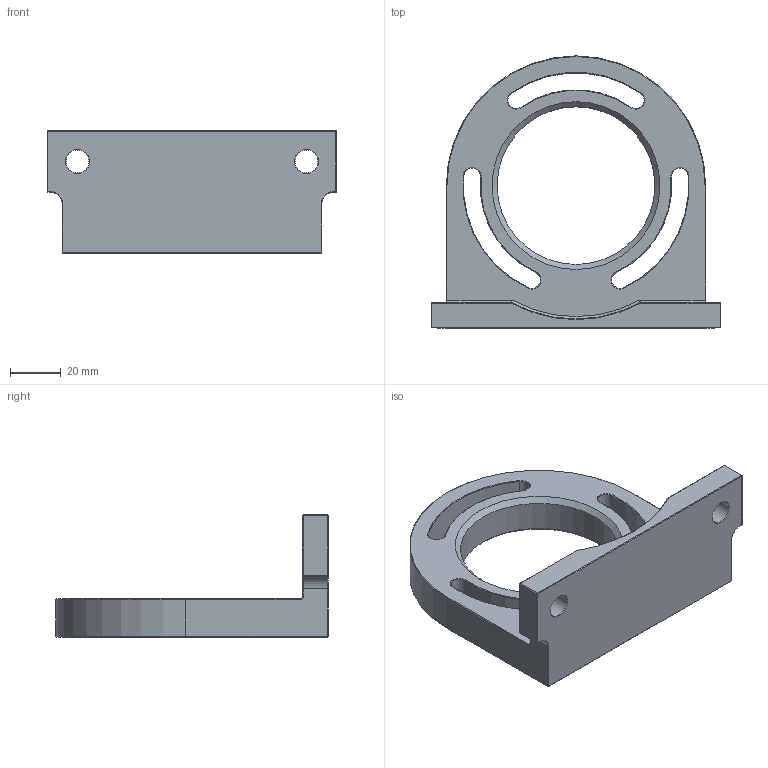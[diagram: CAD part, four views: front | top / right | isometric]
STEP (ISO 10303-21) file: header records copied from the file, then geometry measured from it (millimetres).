
FILE_DESCRIPTION(/* description */ (''),/* implementation_level */ '2;1');
FILE_NAME(/* name */ 'Bracket for RTA602-RTC600_3D VAD_20260212.STP',/* time_stamp */ '2026-02-12T12:54:08+01:00',/* author */ ('jdi'),/* organization */ (''),/* preprocessor_version */ 'ST-DEVELOPER v19.2',/* originating_system */ 'Autodesk Inventor 2023',/* authorisation */ '');
FILE_SCHEMA (('AUTOMOTIVE_DESIGN { 1 0 10303 214 3 1 1 }'));
Length unit declared in the file: millimetre
Products named in the file (1): 1120340016
Bounding box: 114 x 107 x 48 mm (x, y, z)
Volume: 112771.6 mm3; surface area: 33255.7 mm2
Topology: 1 solids, 1 shells, 103 faces, 238 edges, 137 vertices
Faces by surface type: plane 42, cone 39, cylinder 21, torus 1
Full cylindrical faces by diameter (mm): 9 x2, 62 x1
Entity records: 2947 total; most frequent: DIRECTION 526, CARTESIAN_POINT 511, ORIENTED_EDGE 476, EDGE_CURVE 238, AXIS2_PLACEMENT_3D 188, LINE 150, VECTOR 150, VERTEX_POINT 137
